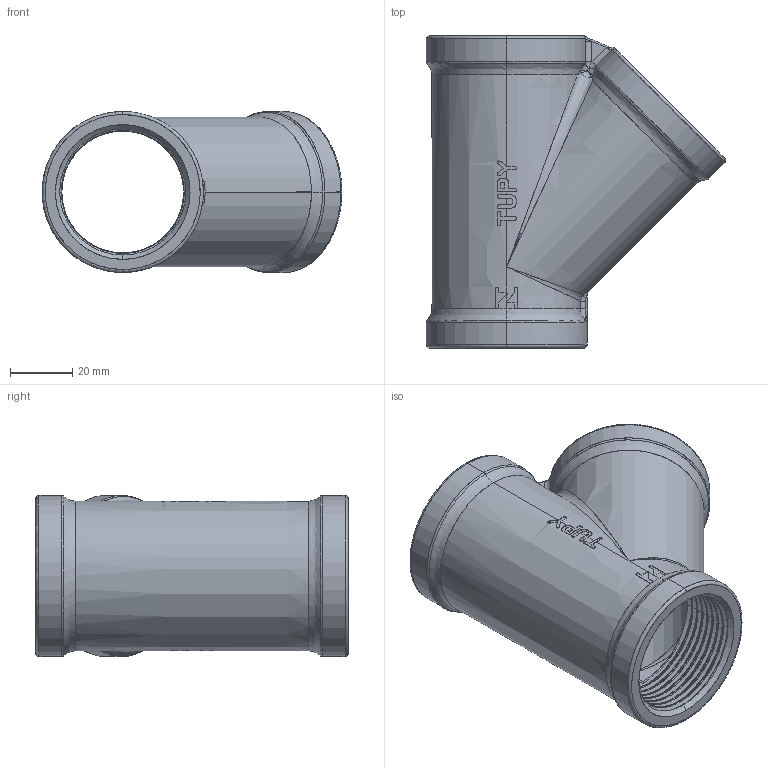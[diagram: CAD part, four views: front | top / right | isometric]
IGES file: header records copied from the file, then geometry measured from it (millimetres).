
Start section: SolidWorks IGES file using analytic representation for surfaces
Global section: file name: C:\Users\Joel Rosa\Desktop\Tubulação\12-54-XXX\12-54-008.IGS; native system: SolidWorks 2011; preprocessor: SolidWorks 2011; author: Joel Rosa; date: 121213.023947; units: millimetre
Bounding box: 95.95 x 100 x 51.6 mm (x, y, z)
Surface area: 44462.3 mm2 (no closed solid volume)
Topology: 0 solids, 0 shells, 475 faces, 3920 edges, 3901 vertices
Faces by surface type: bspline 320, revolution 155
